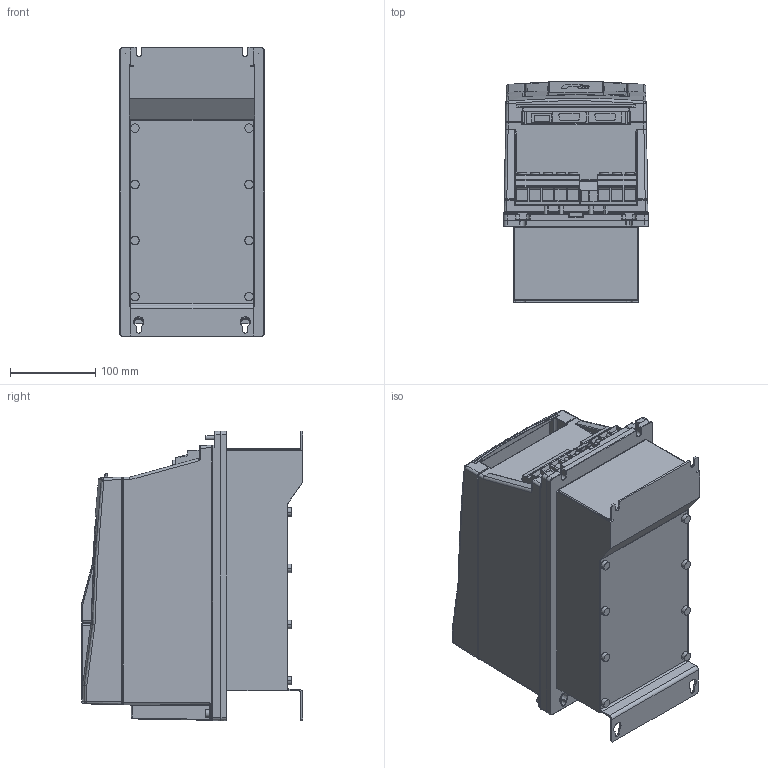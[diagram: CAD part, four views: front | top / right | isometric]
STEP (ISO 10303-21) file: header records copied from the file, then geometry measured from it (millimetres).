
FILE_DESCRIPTION (( 'STEP AP214' ), '1' );
FILE_NAME ('Housing F6-3 TR0-P050.STEP', '2020-11-10T08:30:26', ( '' ), ( '' ), 'SwSTEP 2.0', 'SolidWorks 2019', '' );
FILE_SCHEMA (( 'AUTOMOTIVE_DESIGN' ));
Length unit declared in the file: millimetre
Products named in the file (9): 10060392_000; 10059765_000; 10040482_000_Kundenmodell; Housing F6-3 TR0-P050; 10036504_000_Leistungsteil TR0 (Kundenmodell); 10059764_000_Blindabdeckung (Kundenmodell); 10051076_000_Kundenmodell; 10059762_000_Kundenmodell mit Geberbuchsen; 10060393_000
Assembly tree (8 placements, depth 4):
  Housing F6-3 TR0-P050
    10036504_000_Leistungsteil TR0 (Kundenmodell)
      10060392_000
    10040482_000_Kundenmodell
      10060393_000
    10051076_000_Kundenmodell
      10059764_000_Blindabdeckung (Kundenmodell)
        10059765_000
      10059762_000_Kundenmodell mit Geberbuchsen
Bounding box: 170 x 259.88 x 340 mm (x, y, z)
Volume: 10579754.1 mm3; surface area: 628306.4 mm2
Topology: 11 solids, 14 shells, 1891 faces, 4782 edges, 2936 vertices
Faces by surface type: plane 815, cylinder 564, bspline 319, torus 74, cone 69, sphere 50
Entity records: 63739 total; most frequent: CARTESIAN_POINT 20947, ORIENTED_EDGE 9436, DIRECTION 8111, EDGE_CURVE 4718, VERTEX_POINT 2936, AXIS2_PLACEMENT_3D 2774, VECTOR 2563, LINE 2563
